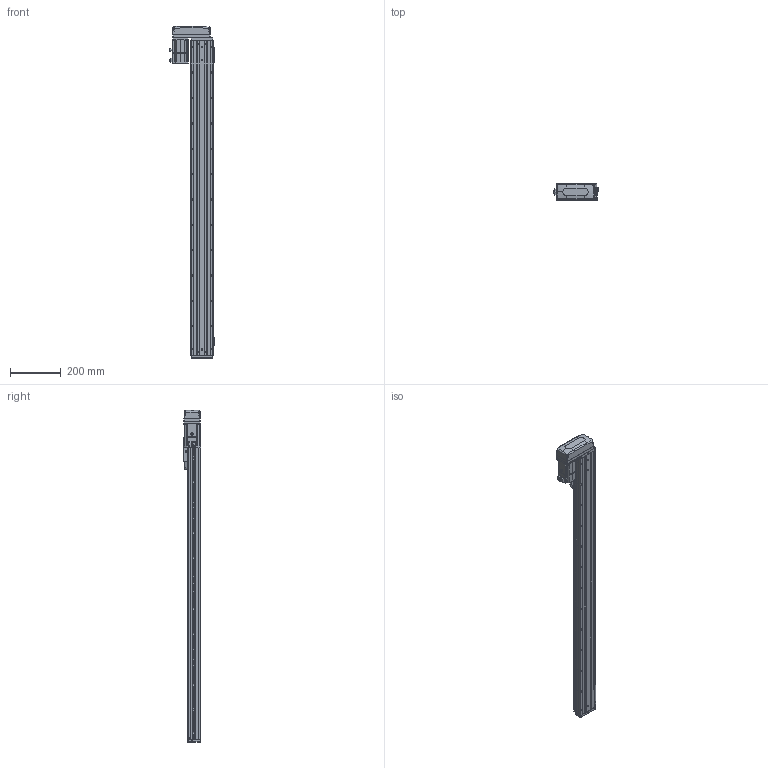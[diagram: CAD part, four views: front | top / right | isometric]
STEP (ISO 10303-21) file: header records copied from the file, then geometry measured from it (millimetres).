
FILE_DESCRIPTION (( 'STEP AP203' ), '1' );
FILE_NAME ('CTHA86-1050-BR-M20-C4L.step', '2022-04-26T00:58:40', ( '微软用户' ), ( '微软中国' ), 'SwSTEP 2.0', 'SolidWorks 2020', '' );
FILE_SCHEMA (( 'CONFIG_CONTROL_DESIGN' ));
Length unit declared in the file: millimetre
Products named in the file (21): GBT 70.1-M3℅6; CTHA86-015-1_CTHA86-015-2; CTHA60-017; CTHA60-016; CTHA86-033; CTHA60-021; _X2_4E0983F1_X0_200W_1; CTHA86-1050-BR-M20-C4L; KTHA86-001_1240; GBT77-2000 M3×3; CTHA86-002; KTHA86-004; GBT 70.1-M3×20; CTHA86-031; KTHA86-005; GBT70.1 M5℅16; CTHA86-030; GB¨uT 70.2-M3¡Á5_M3¡Á6; GBT 70.1-M3×16; GBT 70.3-M3℅6; EE_SX911P_R
Assembly tree (66 placements, depth 2):
  CTHA86-1050-BR-M20-C4L
    KTHA86-001_1240
    KTHA86-004
    KTHA86-005
    GB¨uT 70.2-M3¡Á5_M3¡Á6  x10
    EE_SX911P_R  x3
    CTHA60-017  x3
    CTHA60-021  x2
    GBT77-2000 M3×3  x6
    GBT 70.1-M3×20
    GBT70.1 M5℅16  x14
    GBT 70.1-M3×16  x5
    GBT 70.1-M3℅6  x6
    CTHA60-016  x2
    _X2_4E0983F1_X0_200W_1
    CTHA86-002
    CTHA86-031
    CTHA86-030  x2
    GBT 70.3-M3℅6  x4
    CTHA86-015-1_CTHA86-015-2
    CTHA86-033
Bounding box: 178.52 x 68 x 1309 mm (x, y, z)
Volume: 4803200.3 mm3; surface area: 813717.8 mm2
Topology: 68 solids, 68 shells, 2866 faces, 6876 edges, 4240 vertices
Faces by surface type: plane 1511, cylinder 747, cone 377, torus 132, bspline 75, sphere 24
Entity records: 51665 total; most frequent: CARTESIAN_POINT 9955, DIRECTION 8069, ORIENTED_EDGE 7852, EDGE_CURVE 3926, AXIS2_PLACEMENT_3D 2738, LINE 2593, VECTOR 2593, VERTEX_POINT 2472
